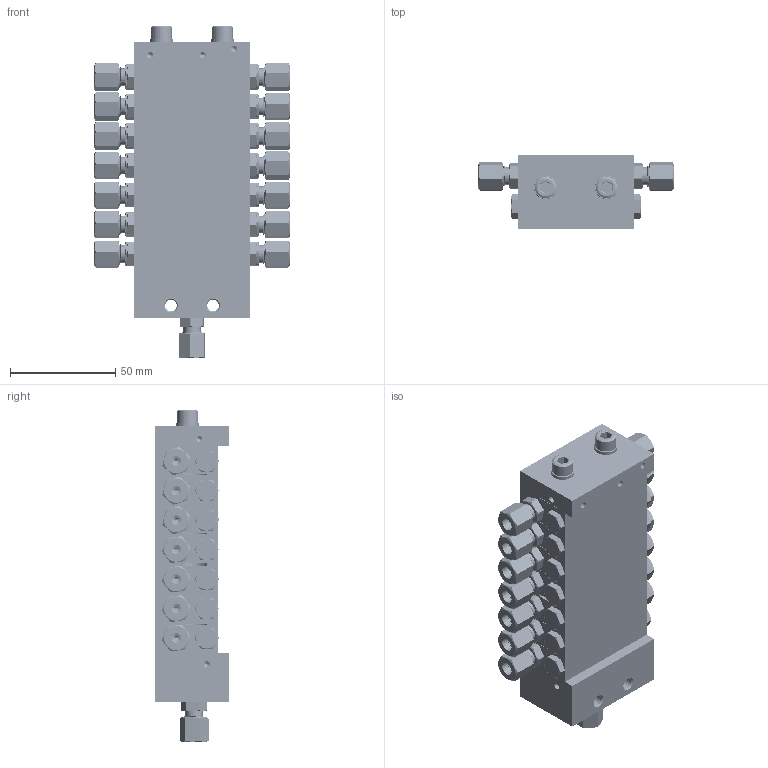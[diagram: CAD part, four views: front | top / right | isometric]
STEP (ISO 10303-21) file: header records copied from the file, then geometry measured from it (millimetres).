
FILE_DESCRIPTION (( 'STEP AP214' ), '1' );
FILE_NAME ('STW_XV_0143_14_050_14_Auslässe.STEP', '2026-01-28T15:14:04', ( '' ), ( '' ), 'SwSTEP 2.0', 'SolidWorks 2022', '' );
FILE_SCHEMA (( 'AUTOMOTIVE_DESIGN' ));
Length unit declared in the file: millimetre
Products named in the file (14): Verschlussstopfen_1_8_2; STW_XV_Kolbenanschlag; 991214010601_Schneidring; 991214010601_Mutter; STW_XV_Verbindungsstopen; STW_XV_MITTEL_1; XV_Mittelelement; M6X65_DIN_912; STW_XV_0143_14_050_14_Auslässe; 991214010601; U_Scheibe_6; 991214010601_Koerper; STW_XV_ENGANG; STW_XV_END
Assembly tree (52 placements, depth 3):
  STW_XV_0143_14_050_14_Auslässe
    STW_XV_ENGANG
    STW_XV_MITTEL_1  x3
    STW_XV_END
    Verschlussstopfen_1_8_2  x6
    STW_XV_Kolbenanschlag  x6
    STW_XV_Verbindungsstopen  x3
    M6X65_DIN_912  x2
    U_Scheibe_6  x2
    991214010601  x15
      991214010601_Koerper
      991214010601_Schneidring
      991214010601_Mutter
    XV_Mittelelement  x4
      STW_XV_MITTEL_1
      STW_XV_Kolbenanschlag
      Verschlussstopfen_1_8_2
      STW_XV_Verbindungsstopen
Bounding box: 92.76 x 35 x 157.68 mm (x, y, z)
Volume: 236184.1 mm3; surface area: 140825.9 mm2
Topology: 93 solids, 93 shells, 2947 faces, 7451 edges, 4786 vertices
Faces by surface type: plane 1322, cylinder 907, cone 518, bspline 186, torus 14
Full cylindrical faces by diameter (mm): 2 x185, 3 x14, 4.5 x15, 5 x74, 5.5 x2, 5.9 x2, 6 x17, 6.2 x31, 6.4 x2, 6.5 x14, 7 x14, 7.4 x15, 7.67 x15, 8 x29, 8.3 x15, 8.4 x7, 8.6 x35, 9 x30, 9.7 x14, 9.73 x7, 9.8 x105, 10 x16, 11 x2, 15 x1
Entity records: 40707 total; most frequent: CARTESIAN_POINT 20497, ORIENTED_EDGE 2738, DIRECTION 2339, EDGE_CURVE 1369, VERTEX_POINT 974, EDGE_LOOP 901, AXIS2_PLACEMENT_3D 820, FACE_OUTER_BOUND 724
